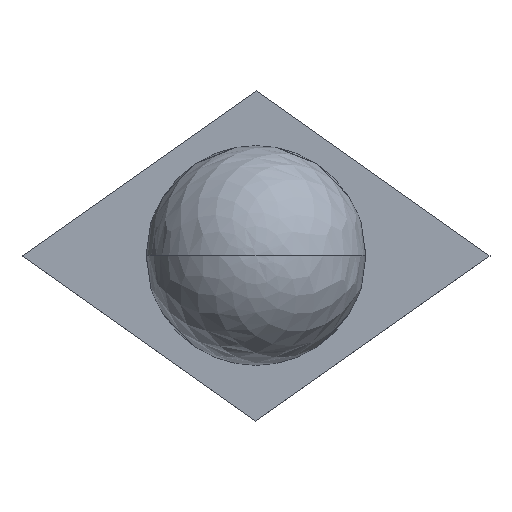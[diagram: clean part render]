
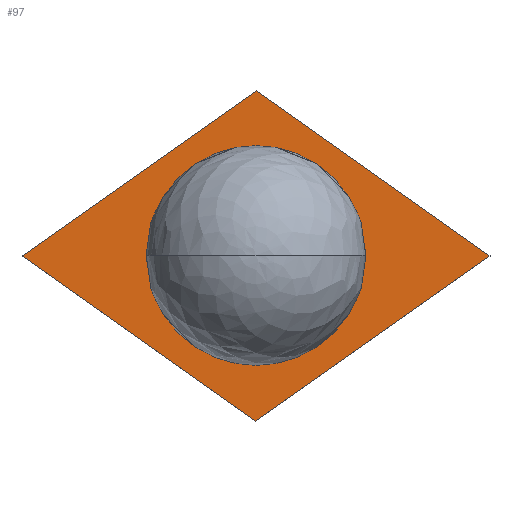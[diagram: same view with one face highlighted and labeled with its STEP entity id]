
A CAD part, top view. The second image highlights one B-rep face of the part: STEP entity #97.
In plain terms, the highlighted planar face has unit normal (0, 0, 1).
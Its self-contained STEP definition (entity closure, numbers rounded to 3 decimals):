
#11=B_SPLINE_CURVE_WITH_KNOTS('',1,(#990,#991),.UNSPECIFIED.,.F.,.F.,(2,
2),(0.,104.043),.UNSPECIFIED.);
#12=B_SPLINE_CURVE_WITH_KNOTS('',1,(#992,#993),.UNSPECIFIED.,.F.,.F.,(2,
2),(104.043,208.087),.UNSPECIFIED.);
#13=B_SPLINE_CURVE_WITH_KNOTS('',1,(#994,#995),.UNSPECIFIED.,.F.,.F.,(2,
2),(208.087,312.13),.UNSPECIFIED.);
#14=B_SPLINE_CURVE_WITH_KNOTS('',1,(#996,#997),.UNSPECIFIED.,.F.,.F.,(2,
2),(312.13,416.173),.UNSPECIFIED.);
#36=FACE_BOUND('',#127,.T.);
#97=ADVANCED_FACE('',(#111,#36),#296,.T.);
#111=FACE_OUTER_BOUND('',#126,.T.);
#126=EDGE_LOOP('',(#160,#161,#162,#163));
#127=EDGE_LOOP('',(#164));
#160=ORIENTED_EDGE('',*,*,#208,.T.);
#161=ORIENTED_EDGE('',*,*,#209,.T.);
#162=ORIENTED_EDGE('',*,*,#210,.T.);
#163=ORIENTED_EDGE('',*,*,#211,.T.);
#164=ORIENTED_EDGE('',*,*,#212,.T.);
#208=EDGE_CURVE('',#268,#269,#11,.T.);
#209=EDGE_CURVE('',#269,#270,#12,.T.);
#210=EDGE_CURVE('',#270,#271,#13,.T.);
#211=EDGE_CURVE('',#271,#268,#14,.T.);
#212=EDGE_CURVE('',#272,#272,#248,.T.);
#248=CIRCLE('',#411,22.5);
#268=VERTEX_POINT('',#985);
#269=VERTEX_POINT('',#986);
#270=VERTEX_POINT('',#987);
#271=VERTEX_POINT('',#988);
#272=VERTEX_POINT('',#989);
#296=PLANE('',#410);
#410=AXIS2_PLACEMENT_3D('',#984,#455,$);
#411=AXIS2_PLACEMENT_3D($,#998,#456,#457);
#455=DIRECTION('',(0.,0.,1.));
#456=DIRECTION('',(0.,0.,-1.));
#457=DIRECTION('',(1.,0.,0.));
#984=CARTESIAN_POINT('',(35.58,100.115,28.));
#985=CARTESIAN_POINT('',(0.,60.,28.));
#986=CARTESIAN_POINT('',(-85.,0.,28.));
#987=CARTESIAN_POINT('',(0.,-60.,28.));
#988=CARTESIAN_POINT('',(85.,0.,28.));
#989=CARTESIAN_POINT('',(22.5,0.,28.));
#990=CARTESIAN_POINT('',(0.,60.,28.));
#991=CARTESIAN_POINT('',(-85.,0.,28.));
#992=CARTESIAN_POINT('',(-85.,0.,28.));
#993=CARTESIAN_POINT('',(0.,-60.,28.));
#994=CARTESIAN_POINT('',(0.,-60.,28.));
#995=CARTESIAN_POINT('',(85.,0.,28.));
#996=CARTESIAN_POINT('',(85.,0.,28.));
#997=CARTESIAN_POINT('',(0.,60.,28.));
#998=CARTESIAN_POINT('',(0.,0.,28.));
